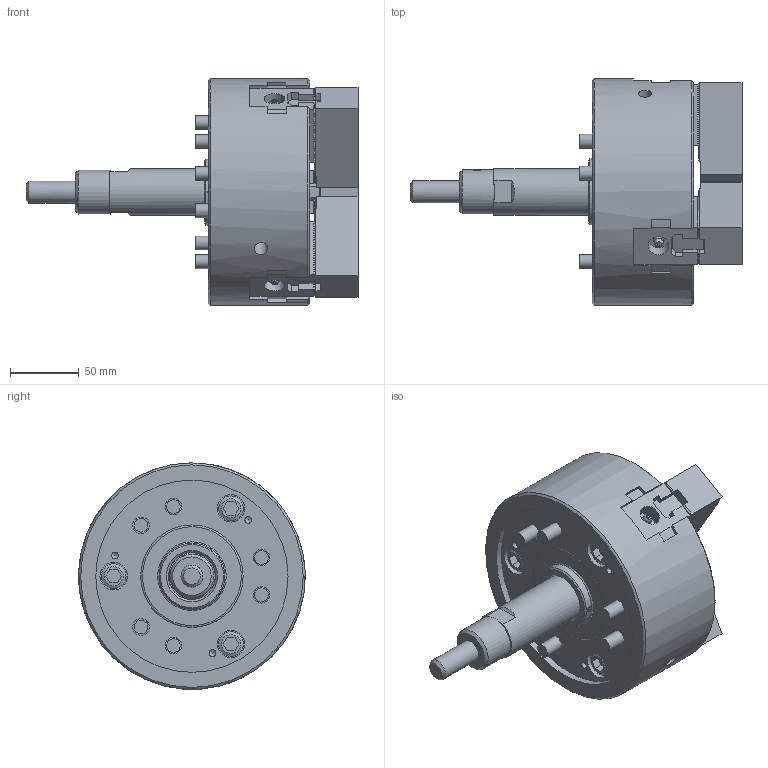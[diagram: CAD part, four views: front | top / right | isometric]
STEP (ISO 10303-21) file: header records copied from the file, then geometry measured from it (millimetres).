
FILE_DESCRIPTION (( 'STEP AP214' ), '1' );
FILE_NAME ('N-06_OC.STEP', '2020-03-05T00:06:08', ( '' ), ( '' ), 'SwSTEP 2.0', 'SolidWorks 2017', '' );
FILE_SCHEMA (( 'AUTOMOTIVE_DESIGN' ));
Length unit declared in the file: millimetre
Products named in the file (18): B傾僫僣僉 M10亊300_~30_棉太倌TI佱UA; B傾僫僣僉 M10亊300_~30; 61P302540-2_ソフトジョー_W_‡_[; 61P302540-2_ソフトジョー_W_‡_[_ﾃﾞﾌｫﾙﾄ_ATI≪UA; N-06_OC; Part2^61P208177-9_クミタテ_^_e; 61P400822-4_T僫僢僩b_g_棉太倌佱UA; Part2^61P208177-9_僋儈僞僥_^_e_棉太倌I佱UA; 61P400822-4_T僫僢僩b_g
Assembly tree (13 placements, depth 2):
  B傾僫僣僉 M10亊300_~30
  61P302540-2_ソフトジョー_W_‡_[
  61P302540-2_ソフトジョー_W_‡_[
  N-06_OC
    61P400822-4_T僫僢僩b_g_棉太倌佱UA  x3
    61P302540-2_ソフトジョー_W_‡_[_ﾃﾞﾌｫﾙﾄ_ATI≪UA  x3
    B傾僫僣僉 M10亊300_~30_棉太倌TI佱UA  x6
    Part2^61P208177-9_僋儈僞僥_^_e_棉太倌I佱UA
  Part2^61P208177-9_クミタテ_^_e
Bounding box: 241.7 x 164.91 x 164.77 mm (x, y, z)
Volume: 1700617 mm3; surface area: 237785.6 mm2
Topology: 13 solids, 27 shells, 2045 faces, 5647 edges, 3745 vertices
Faces by surface type: plane 1836, cylinder 152, cone 46, sphere 6, torus 5
Full cylindrical faces by diameter (mm): 1.9 x3, 4.2 x1, 5 x3, 8.5 x3, 9 x2, 9.5 x3, 10 x20, 11 x6, 12 x6, 15 x3, 16 x13, 17 x12, 18 x3, 20 x3, 21 x1, 23.6 x1, 24 x1, 25 x1, 32 x1, 34 x1, 48 x1, 74.6 x1, 140 x1, 165 x1
Entity records: 44624 total; most frequent: CARTESIAN_POINT 8243, ORIENTED_EDGE 7548, DIRECTION 7009, EDGE_CURVE 3774, LINE 3335, VECTOR 3335, VERTEX_POINT 2553, AXIS2_PLACEMENT_3D 1837
